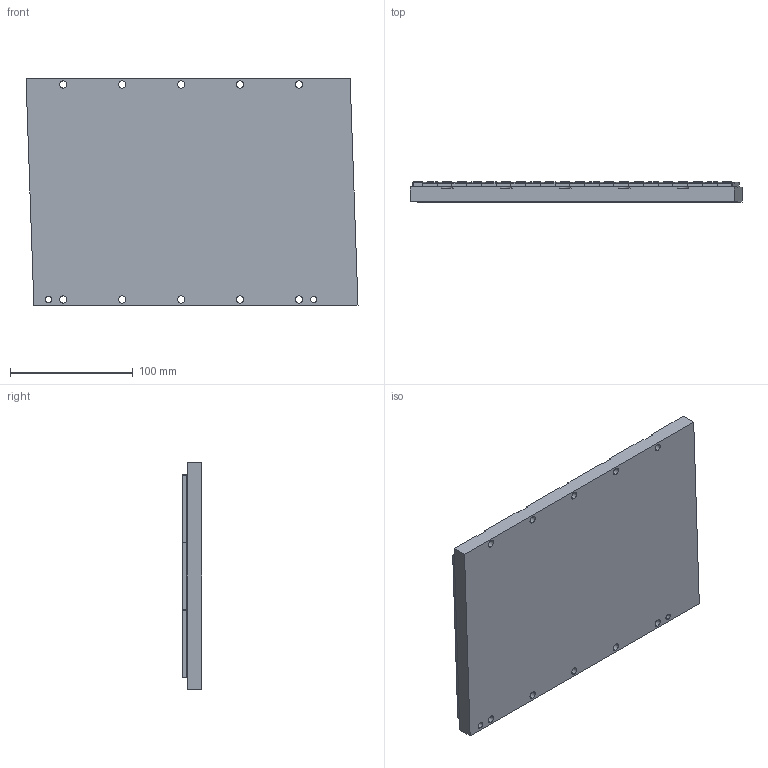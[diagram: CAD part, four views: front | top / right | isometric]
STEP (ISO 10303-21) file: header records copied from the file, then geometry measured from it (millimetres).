
FILE_DESCRIPTION (( 'STEP AP203' ), '1' );
FILE_NAME ('MP177-264.STEP', '2022-06-14T00:42:08', ( '' ), ( '' ), 'SwSTEP 2.0', 'SolidWorks 2021', '' );
FILE_SCHEMA (( 'CONFIG_CONTROL_DESIGN' ));
Length unit declared in the file: millimetre
Products named in the file (1): MP177-264
Bounding box: 270.28 x 16 x 184 mm (x, y, z)
Volume: 735861.1 mm3; surface area: 119501.5 mm2
Topology: 1 solids, 1 shells, 1222 faces, 3012 edges, 1510 vertices
Faces by surface type: cylinder 610, plane 321, sphere 291
Entity records: 33259 total; most frequent: DIRECTION 6366, CARTESIAN_POINT 5564, ORIENTED_EDGE 5458, EDGE_CURVE 2729, AXIS2_PLACEMENT_3D 2448, VERTEX_POINT 1510, LINE 1470, VECTOR 1470
